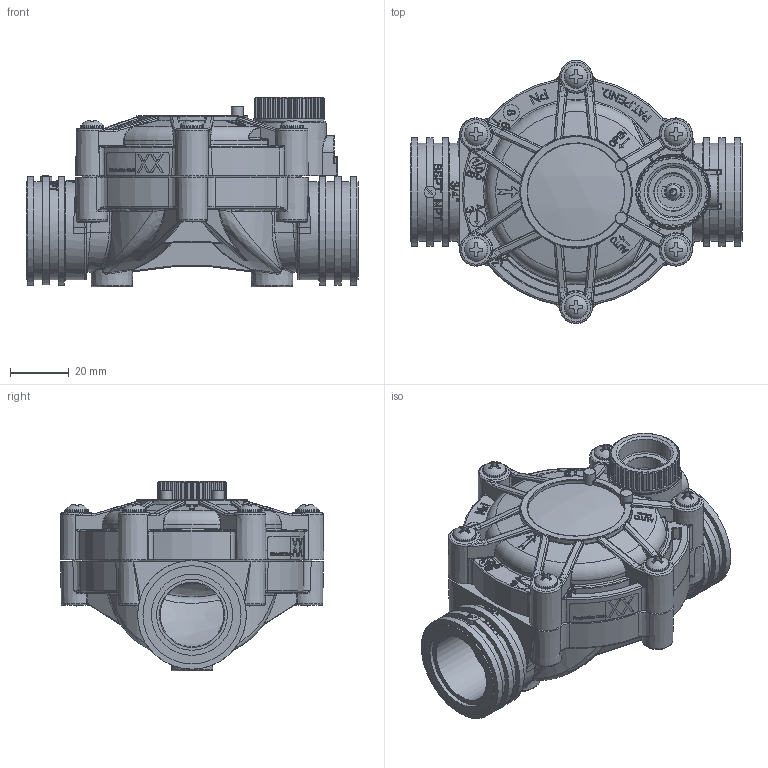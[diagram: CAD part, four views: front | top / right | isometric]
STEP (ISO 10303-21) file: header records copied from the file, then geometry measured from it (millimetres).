
FILE_DESCRIPTION((''),'2;1');
FILE_NAME('H-gal3_4-2w','2011-07-25T10:14:19',('dafnaraz'),(''),'CADlook_v12.0','Cimatron E 9.0','');
FILE_SCHEMA(('AUTOMOTIVE_DESIGN { 1 2 10303 214 0 1 1 1 }'));
Length unit declared in the file: millimetre
Products named in the file (8): H-gal3_4-2w.1; HP-C-XX; 9084; override-750; mav8x1_7; Bonnet1P-ca; Hdia-1; body07-ca
Assembly tree (12 placements, depth 2):
  H-gal3_4-2w.1
    HP-C-XX
    9084
    override-750
    mav8x1_7  x6
    Bonnet1P-ca
    Hdia-1
    body07-ca
Bounding box: 113 x 89.66 x 64.61 mm (x, y, z)
Volume: 82195.5 mm3; surface area: 81563.9 mm2
Topology: 19 solids, 24 shells, 4394 faces, 12580 edges, 9931 vertices
Faces by surface type: bspline 1391, plane 1168, cylinder 1110, torus 413, cone 172, sphere 140
Full cylindrical faces by diameter (mm): 2 x1, 2.2 x2, 2.3 x1, 2.5 x2, 2.6 x2, 2.9 x6, 4 x3, 4.4 x6, 5 x2, 5.4 x1, 5.5 x3, 7.8 x1, 8 x6, 8.6 x2, 9.5 x1, 10 x1, 12.8 x2, 13 x4, 17.3 x1, 17.8 x1, 19 x2, 24 x1, 24.1 x2, 27.6 x2, 33.4 x8, 37 x5, 74.4 x1
Entity records: 273776 total; most frequent: CARTESIAN_POINT 134153, ORIENTED_EDGE 20824, DIRECTION 18341, EDGE_CURVE 10426, AXIS2_PLACEMENT_3D 6884, VERTEX_POINT 6445, COLOUR_RGB 5835, PRESENTATION_STYLE_ASSIGNMENT 5835
